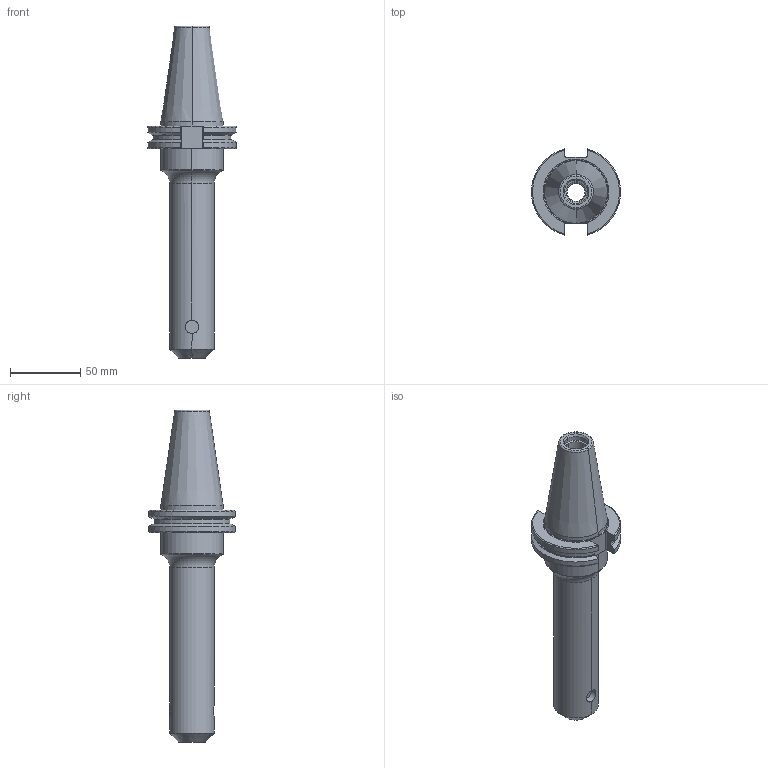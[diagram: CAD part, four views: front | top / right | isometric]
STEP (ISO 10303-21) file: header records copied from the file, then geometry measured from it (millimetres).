
FILE_DESCRIPTION (( 'STEP AP214' ), '1' );
FILE_NAME ('RC4EM0500663.STEP', '2019-02-08T14:23:24', ( '' ), ( '' ), 'SwSTEP 2.0', 'SolidWorks 2019', '' );
FILE_SCHEMA (( 'AUTOMOTIVE_DESIGN' ));
Length unit declared in the file: inch
Products named in the file (1): RC4EM0500663
Bounding box: 63.26 x 61.35 x 236.52 mm (x, y, z)
Volume: 205594.6 mm3; surface area: 41990 mm2
Topology: 1 solids, 1 shells, 117 faces, 301 edges, 185 vertices
Faces by surface type: cylinder 37, plane 35, cone 29, torus 16
Entity records: 3989 total; most frequent: CARTESIAN_POINT 1091, ORIENTED_EDGE 594, DIRECTION 593, EDGE_CURVE 297, AXIS2_PLACEMENT_3D 235, VERTEX_POINT 185, LINE 123, VECTOR 123
